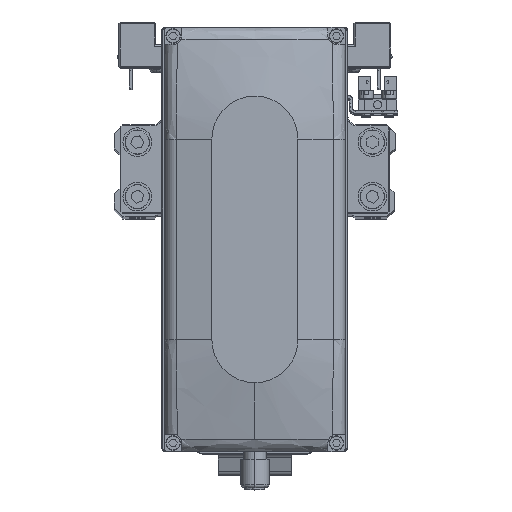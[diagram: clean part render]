
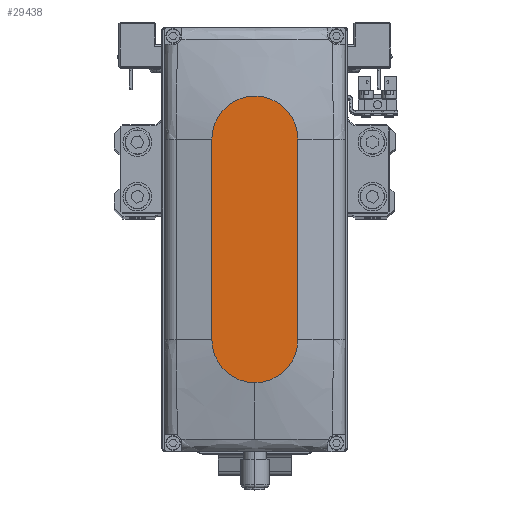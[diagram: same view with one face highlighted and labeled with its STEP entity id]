
A CAD part, top view. The second image highlights one B-rep face of the part: STEP entity #29438.
In plain terms, the highlighted planar face has unit normal (0, 0, 1).
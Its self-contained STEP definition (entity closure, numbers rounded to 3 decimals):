
#22 = CARTESIAN_POINT ( 'NONE',  ( -35., 15., 35. ) ) ;
#892 = ORIENTED_EDGE ( 'NONE', *, *, #30490, .T. ) ;
#1037 = CARTESIAN_POINT ( 'NONE',  ( 35., -15., 35. ) ) ;
#2137 = ORIENTED_EDGE ( 'NONE', *, *, #18051, .T. ) ;
#2291 = VERTEX_POINT ( 'NONE', #6494 ) ;
#2854 = VECTOR ( 'NONE', #12445, 1000. ) ;
#3276 = CARTESIAN_POINT ( 'NONE',  ( -35., 0., 35. ) ) ;
#4821 = DIRECTION ( 'NONE',  ( 1., 0., 0. ) ) ;
#6494 = CARTESIAN_POINT ( 'NONE',  ( -35., -15., 35. ) ) ;
#6882 = VECTOR ( 'NONE', #8943, 1000. ) ;
#7900 = PLANE ( 'NONE',  #29707 ) ;
#8943 = DIRECTION ( 'NONE',  ( 1., 0., 0. ) ) ;
#10527 = CARTESIAN_POINT ( 'NONE',  ( 35., 0., 35. ) ) ;
#10596 = CIRCLE ( 'NONE', #33308, 15. ) ;
#11034 = VERTEX_POINT ( 'NONE', #23913 ) ;
#11728 = AXIS2_PLACEMENT_3D ( 'NONE', #10527, #22918, #35326 ) ;
#12270 = CARTESIAN_POINT ( 'NONE',  ( 50., 0., 35. ) ) ;
#12445 = DIRECTION ( 'NONE',  ( -1., 0., 0. ) ) ;
#15291 = CARTESIAN_POINT ( 'NONE',  ( 35., 0., 35. ) ) ;
#15683 = DIRECTION ( 'NONE',  ( 0., 0., 1. ) ) ;
#18051 = EDGE_CURVE ( 'NONE', #38212, #11034, #10596, .T. ) ;
#20289 = CARTESIAN_POINT ( 'NONE',  ( 0., 0., 35. ) ) ;
#20309 = EDGE_LOOP ( 'NONE', ( #27534, #892, #28755, #24163, #2137 ) ) ;
#20685 = AXIS2_PLACEMENT_3D ( 'NONE', #3276, #15683, #28080 ) ;
#22918 = DIRECTION ( 'NONE',  ( 0., 0., 1. ) ) ;
#23140 = VERTEX_POINT ( 'NONE', #25695 ) ;
#23913 = CARTESIAN_POINT ( 'NONE',  ( 35., 15., 35. ) ) ;
#24163 = ORIENTED_EDGE ( 'NONE', *, *, #24534, .T. ) ;
#24376 = LINE ( 'NONE', #36787, #6882 ) ;
#24534 = EDGE_CURVE ( 'NONE', #39709, #38212, #29251, .T. ) ;
#25695 = CARTESIAN_POINT ( 'NONE',  ( -35., 15., 35. ) ) ;
#27534 = ORIENTED_EDGE ( 'NONE', *, *, #34900, .T. ) ;
#27694 = DIRECTION ( 'NONE',  ( 0., 0., 1. ) ) ;
#27890 = LINE ( 'NONE', #22, #2854 ) ;
#28080 = DIRECTION ( 'NONE',  ( 1., 0., 0. ) ) ;
#28755 = ORIENTED_EDGE ( 'NONE', *, *, #30816, .T. ) ;
#29251 = CIRCLE ( 'NONE', #11728, 15. ) ;
#29438 = ADVANCED_FACE ( 'NONE', ( #35746 ), #7900, .T. ) ;
#29707 = AXIS2_PLACEMENT_3D ( 'NONE', #20289, #32689, #4821 ) ;
#30490 = EDGE_CURVE ( 'NONE', #23140, #2291, #38222, .T. ) ;
#30816 = EDGE_CURVE ( 'NONE', #2291, #39709, #24376, .T. ) ;
#32689 = DIRECTION ( 'NONE',  ( 0., 0., 1. ) ) ;
#33308 = AXIS2_PLACEMENT_3D ( 'NONE', #15291, #27694, #40097 ) ;
#34900 = EDGE_CURVE ( 'NONE', #11034, #23140, #27890, .T. ) ;
#35326 = DIRECTION ( 'NONE',  ( 1., 0., 0. ) ) ;
#35746 = FACE_OUTER_BOUND ( 'NONE', #20309, .T. ) ;
#36787 = CARTESIAN_POINT ( 'NONE',  ( -35., -15., 35. ) ) ;
#38212 = VERTEX_POINT ( 'NONE', #12270 ) ;
#38222 = CIRCLE ( 'NONE', #20685, 15. ) ;
#39709 = VERTEX_POINT ( 'NONE', #1037 ) ;
#40097 = DIRECTION ( 'NONE',  ( 1., 0., 0. ) ) ;
